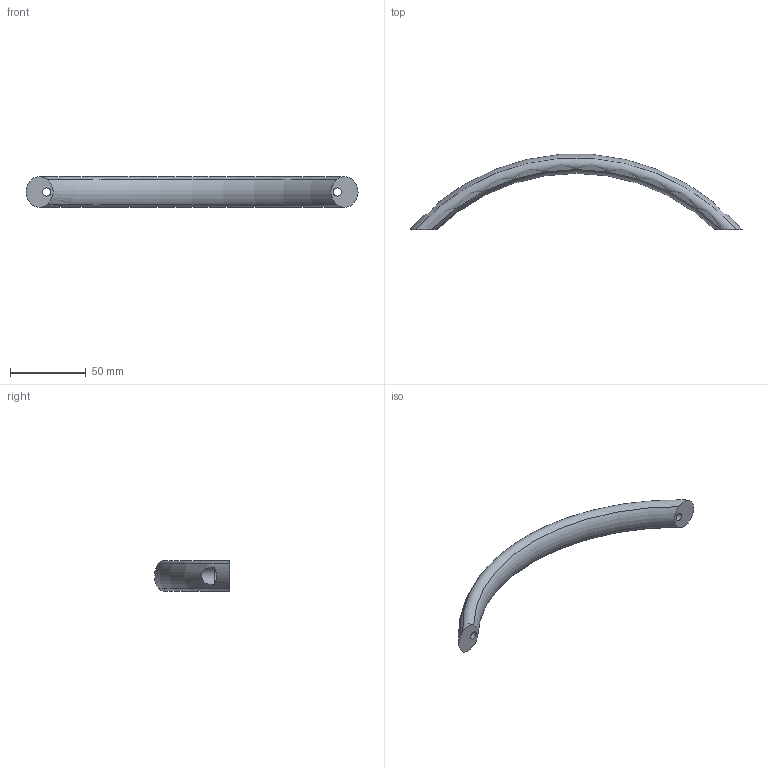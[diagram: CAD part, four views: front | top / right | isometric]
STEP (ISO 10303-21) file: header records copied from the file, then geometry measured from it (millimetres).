
FILE_DESCRIPTION( ( 'STEP AP203' ), '1' );
FILE_NAME( 'C:/Temp/Ganter_Step_05_03_2020/data/1_2/gn_565_4/Arch handle GN 565.4-20-192-B-SR.stp', '2020-03-05T10:12:34', ( 'License CC BY-ND 4.0' ), ( 'CADENAS' ), ' ', 'PARTsolutions', ' ' );
FILE_SCHEMA( ( 'CONFIG_CONTROL_DESIGN' ) );
Length unit declared in the file: millimetre
Products named in the file (1): _Arch handle GN 565.4-20-192-B-SR
Bounding box: 219.29 x 49.56 x 20 mm (x, y, z)
Volume: 44323.7 mm3; surface area: 12987 mm2
Topology: 1 solids, 1 shells, 20 faces, 48 edges, 32 vertices
Faces by surface type: plane 10, cylinder 6, torus 4
Full cylindrical faces by diameter (mm): 5.3 x2, 11 x2
Entity records: 909 total; most frequent: CARTESIAN_POINT 430, DIRECTION 86, ORIENTED_EDGE 84, EDGE_CURVE 42, AXIS2_PLACEMENT_3D 39, EDGE_LOOP 30, VERTEX_POINT 30, FACE_OUTER_BOUND 24
